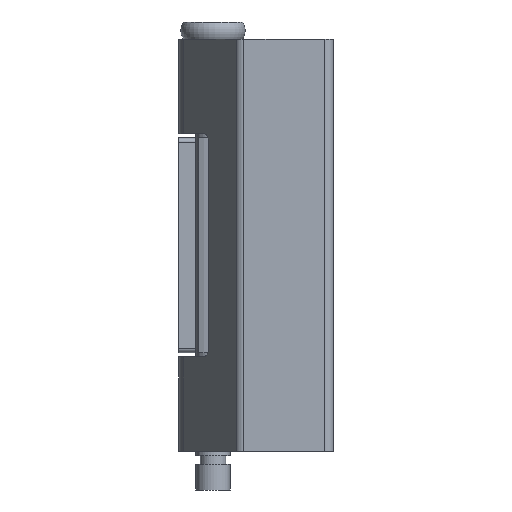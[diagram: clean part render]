
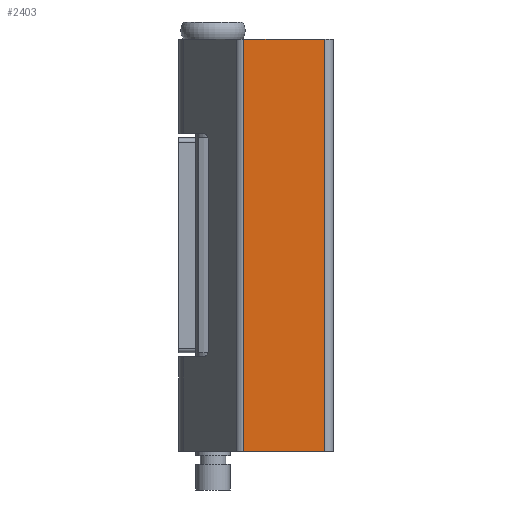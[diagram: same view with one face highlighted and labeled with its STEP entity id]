
A CAD part, front view. The second image highlights one B-rep face of the part: STEP entity #2403.
In plain terms, the highlighted planar face has unit normal (0, -1, 0).
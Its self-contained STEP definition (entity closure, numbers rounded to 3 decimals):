
#24 = LINE ( 'NONE', #2115, #2091 ) ;
#166 = DIRECTION ( 'NONE',  ( 0., 0., 1. ) ) ;
#281 = VECTOR ( 'NONE', #773, 1000. ) ;
#283 = VECTOR ( 'NONE', #553, 1000. ) ;
#407 = ORIENTED_EDGE ( 'NONE', *, *, #490, .F. ) ;
#427 = EDGE_LOOP ( 'NONE', ( #407, #1540, #952, #2377 ) ) ;
#490 = EDGE_CURVE ( 'NONE', #976, #1961, #787, .T. ) ;
#553 = DIRECTION ( 'NONE',  ( 1., 0., 0. ) ) ;
#580 = CARTESIAN_POINT ( 'NONE',  ( 0., -13., 24. ) ) ;
#622 = AXIS2_PLACEMENT_3D ( 'NONE', #818, #2459, #166 ) ;
#771 = CARTESIAN_POINT ( 'NONE',  ( 3.572, -13., 24. ) ) ;
#773 = DIRECTION ( 'NONE',  ( 1., 0., 0. ) ) ;
#787 = LINE ( 'NONE', #580, #281 ) ;
#818 = CARTESIAN_POINT ( 'NONE',  ( 0., -13., 24. ) ) ;
#952 = ORIENTED_EDGE ( 'NONE', *, *, #1794, .T. ) ;
#973 = VECTOR ( 'NONE', #1264, 1000. ) ;
#976 = VERTEX_POINT ( 'NONE', #1030 ) ;
#1030 = CARTESIAN_POINT ( 'NONE',  ( 3.572, -13., 24. ) ) ;
#1112 = EDGE_CURVE ( 'NONE', #2565, #1961, #24, .T. ) ;
#1203 = LINE ( 'NONE', #1968, #283 ) ;
#1264 = DIRECTION ( 'NONE',  ( 0., 0., -1. ) ) ;
#1407 = VERTEX_POINT ( 'NONE', #1707 ) ;
#1439 = CARTESIAN_POINT ( 'NONE',  ( 13., -13., 24. ) ) ;
#1540 = ORIENTED_EDGE ( 'NONE', *, *, #2535, .T. ) ;
#1707 = CARTESIAN_POINT ( 'NONE',  ( 3.572, -13., -24. ) ) ;
#1794 = EDGE_CURVE ( 'NONE', #1407, #2565, #1203, .T. ) ;
#1831 = FACE_OUTER_BOUND ( 'NONE', #427, .T. ) ;
#1961 = VERTEX_POINT ( 'NONE', #1439 ) ;
#1968 = CARTESIAN_POINT ( 'NONE',  ( 0., -13., -24. ) ) ;
#1986 = CARTESIAN_POINT ( 'NONE',  ( 13., -13., -24. ) ) ;
#2020 = DIRECTION ( 'NONE',  ( 0., 0., 1. ) ) ;
#2091 = VECTOR ( 'NONE', #2020, 1000. ) ;
#2115 = CARTESIAN_POINT ( 'NONE',  ( 13., -13., 24. ) ) ;
#2262 = PLANE ( 'NONE',  #622 ) ;
#2376 = LINE ( 'NONE', #771, #973 ) ;
#2377 = ORIENTED_EDGE ( 'NONE', *, *, #1112, .T. ) ;
#2403 = ADVANCED_FACE ( 'NONE', ( #1831 ), #2262, .F. ) ;
#2459 = DIRECTION ( 'NONE',  ( 0., 1., 0. ) ) ;
#2535 = EDGE_CURVE ( 'NONE', #976, #1407, #2376, .T. ) ;
#2565 = VERTEX_POINT ( 'NONE', #1986 ) ;
